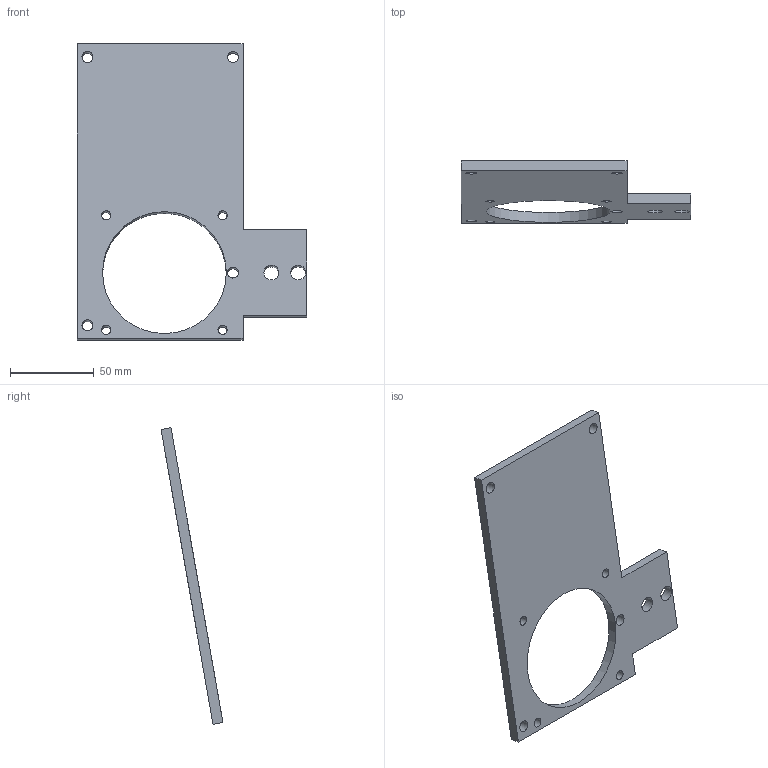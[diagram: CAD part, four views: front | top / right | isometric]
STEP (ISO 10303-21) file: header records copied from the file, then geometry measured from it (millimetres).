
FILE_DESCRIPTION(('golf model'),'2;1');
FILE_NAME('golf','',(''),(''),'golf_step_io','golf','');
FILE_SCHEMA(('AUTOMOTIVE_DESIGN { 1 0 10303 214 1 1 1 1 }'));
Length unit declared in the file: millimetre
Products named in the file (2): ASSEMBLY; gantry_drives.x_motor_plate_top
Assembly tree (1 placements, depth 2):
  ASSEMBLY
    gantry_drives.x_motor_plate_top
Bounding box: 137 x 36.98 x 177.24 mm (x, y, z)
Volume: 90171.8 mm3; surface area: 36494.7 mm2
Topology: 1 solids, 1 shells, 21 faces, 57 edges, 38 vertices
Faces by surface type: cylinder 11, plane 10
Full cylindrical faces by diameter (mm): 5.5 x4, 6.6 x4, 9 x2, 74 x1
Entity records: 696 total; most frequent: DIRECTION 114, CARTESIAN_POINT 107, ORIENTED_EDGE 92, EDGE_LOOP 54, FACE_BOUND 52, EDGE_CURVE 46, AXIS2_PLACEMENT_3D 45, VERTEX_POINT 38
